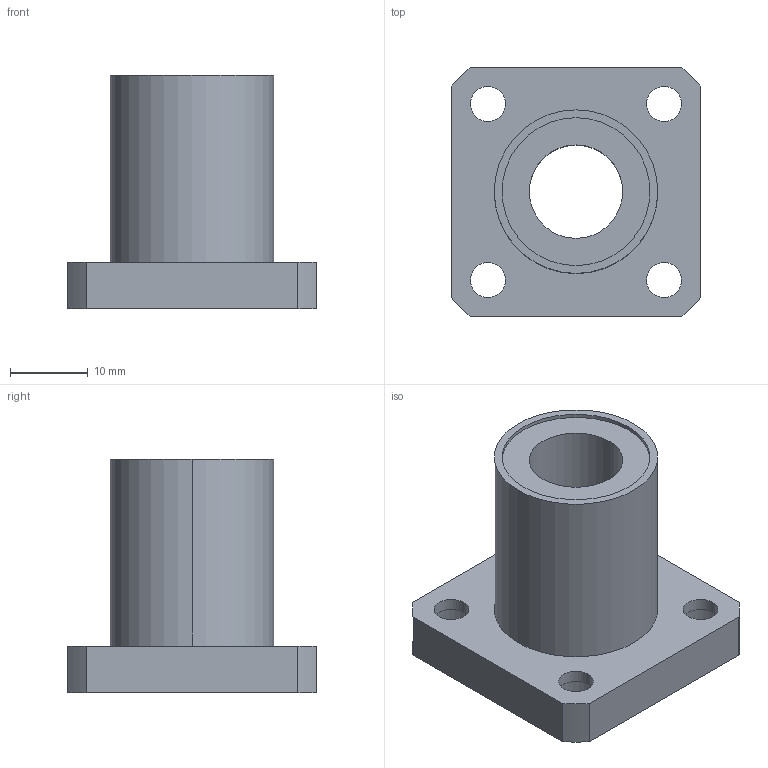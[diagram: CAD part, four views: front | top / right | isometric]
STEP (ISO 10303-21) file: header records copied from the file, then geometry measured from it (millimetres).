
FILE_DESCRIPTION((''),'2;1');
FILE_NAME('C:\Documents and Settings\ｿﾀﾀ蠑ｷ1\ｹﾙﾅﾁ ﾈｭｸ饅\ｺﾎﾇｰﾆﾄﾀﾏ\ﾁｦﾇｰ\LMK__UU\LMK12UU.stp','2005-06-15T09:47:20',('ｿﾀﾀ蠑ｷ1'),(''),'Autodesk Inventor 9','Autodesk Inventor 9','');
FILE_SCHEMA(('AUTOMOTIVE_DESIGN { 1 0 10303 214 1 1 1 1 }'));
Length unit declared in the file: millimetre
Products named in the file (1): LMK__
Bounding box: 32 x 32 x 30 mm (x, y, z)
Volume: 9724.9 mm3; surface area: 5690.4 mm2
Topology: 1 solids, 1 shells, 44 faces, 102 edges, 68 vertices
Faces by surface type: cylinder 30, plane 14
Entity records: 1329 total; most frequent: DIRECTION 252, CARTESIAN_POINT 215, ORIENTED_EDGE 204, AXIS2_PLACEMENT_3D 105, EDGE_CURVE 102, VERTEX_POINT 68, EDGE_LOOP 62, CIRCLE 60
